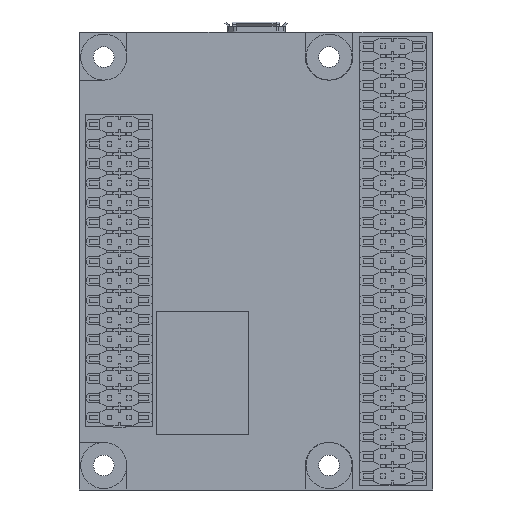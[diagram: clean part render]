
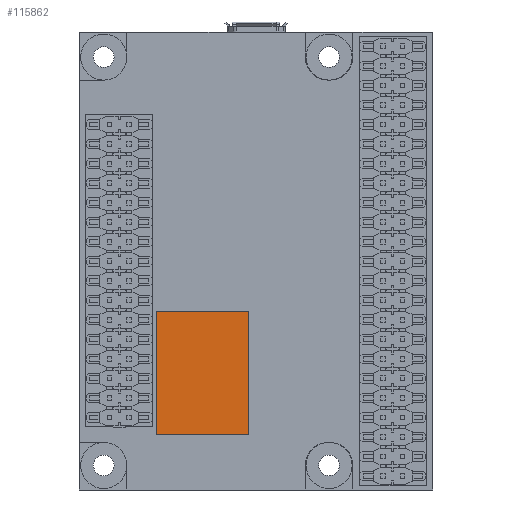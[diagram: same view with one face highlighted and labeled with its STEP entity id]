
A CAD part, front view. The second image highlights one B-rep face of the part: STEP entity #115862.
In plain terms, the highlighted planar face has unit normal (0, -1, 0).
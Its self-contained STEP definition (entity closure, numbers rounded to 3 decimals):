
#115087=DIRECTION('',(0.,0.,1.));
#115088=VECTOR('',#115087,16.);
#115089=CARTESIAN_POINT('',(22.,2.,-52.337));
#115090=LINE('',#115089,#115088);
#115094=DIRECTION('',(1.,0.,0.));
#115095=VECTOR('',#115094,12.);
#115096=CARTESIAN_POINT('',(10.,2.,-52.337));
#115097=LINE('',#115096,#115095);
#115101=DIRECTION('',(0.,0.,-1.));
#115102=VECTOR('',#115101,16.);
#115103=CARTESIAN_POINT('',(10.,2.,-36.337));
#115104=LINE('',#115103,#115102);
#115108=DIRECTION('',(-1.,0.,0.));
#115109=VECTOR('',#115108,12.);
#115110=CARTESIAN_POINT('',(22.,2.,-36.337));
#115111=LINE('',#115110,#115109);
#115235=CARTESIAN_POINT('',(22.,2.,-52.337));
#115236=CARTESIAN_POINT('',(22.,2.,-36.337));
#115237=VERTEX_POINT('',#115235);
#115238=VERTEX_POINT('',#115236);
#115239=CARTESIAN_POINT('',(10.,2.,-36.337));
#115240=VERTEX_POINT('',#115239);
#115241=CARTESIAN_POINT('',(10.,2.,-52.337));
#115242=VERTEX_POINT('',#115241);
#115851=CARTESIAN_POINT('',(0.,2.,0.));
#115852=DIRECTION('',(0.,-1.,0.));
#115853=DIRECTION('',(-1.,0.,0.));
#115854=AXIS2_PLACEMENT_3D('',#115851,#115852,#115853);
#115855=PLANE('',#115854);
#115856=ORIENTED_EDGE('',*,*,#115803,.F.);
#115857=ORIENTED_EDGE('',*,*,#115818,.F.);
#115858=ORIENTED_EDGE('',*,*,#115832,.F.);
#115859=ORIENTED_EDGE('',*,*,#115845,.F.);
#115860=EDGE_LOOP('',(#115856,#115857,#115858,#115859));
#115861=FACE_OUTER_BOUND('',#115860,.F.);
#115862=ADVANCED_FACE('',(#115861),#115855,.T.);
#115803=EDGE_CURVE('',#115237,#115238,#115090,.T.);
#115818=EDGE_CURVE('',#115242,#115237,#115097,.T.);
#115832=EDGE_CURVE('',#115240,#115242,#115104,.T.);
#115845=EDGE_CURVE('',#115238,#115240,#115111,.T.);
